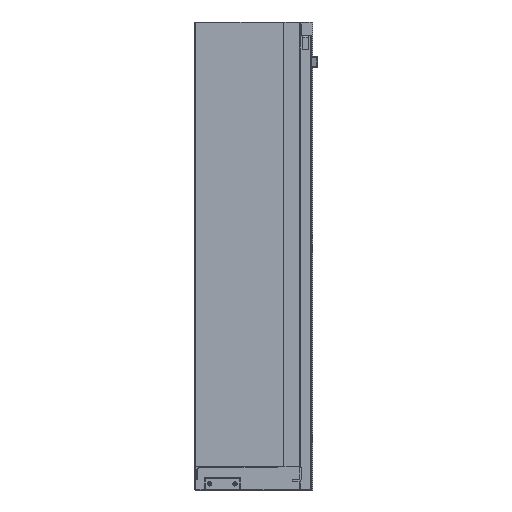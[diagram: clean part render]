
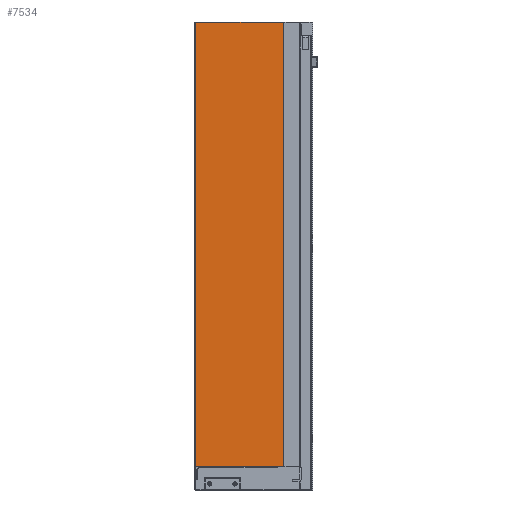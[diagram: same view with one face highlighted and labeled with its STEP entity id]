
A CAD part, left-side view. The second image highlights one B-rep face of the part: STEP entity #7534.
In plain terms, the highlighted planar face has unit normal (-1, 0, 0).
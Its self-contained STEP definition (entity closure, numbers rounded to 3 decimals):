
#368 = DIRECTION ( 'NONE',  ( -1., 0., 0. ) ) ;
#398 = ORIENTED_EDGE ( 'NONE', *, *, #7489, .T. ) ;
#501 = CARTESIAN_POINT ( 'NONE',  ( 0.5, 93.8, -473.5 ) ) ;
#1314 = LINE ( 'NONE', #4140, #9152 ) ;
#1480 = CARTESIAN_POINT ( 'NONE',  ( 0.5, 0., -562.455 ) ) ;
#1648 = LINE ( 'NONE', #1480, #4562 ) ;
#1755 = VERTEX_POINT ( 'NONE', #7722 ) ;
#3297 = VERTEX_POINT ( 'NONE', #501 ) ;
#4036 = DIRECTION ( 'NONE',  ( 0., 0., 1. ) ) ;
#4102 = CARTESIAN_POINT ( 'NONE',  ( 0.5, 93.8, -562.455 ) ) ;
#4140 = CARTESIAN_POINT ( 'NONE',  ( 0.5, 0., -473.5 ) ) ;
#4156 = VECTOR ( 'NONE', #12489, 1000. ) ;
#4243 = FACE_OUTER_BOUND ( 'NONE', #7887, .T. ) ;
#4282 = AXIS2_PLACEMENT_3D ( 'NONE', #9366, #368, #8246 ) ;
#4435 = EDGE_CURVE ( 'NONE', #3297, #1755, #10679, .T. ) ;
#4562 = VECTOR ( 'NONE', #9291, 1000. ) ;
#4642 = ORIENTED_EDGE ( 'NONE', *, *, #8462, .F. ) ;
#4773 = CARTESIAN_POINT ( 'NONE',  ( 0.5, 0., 0. ) ) ;
#6037 = VERTEX_POINT ( 'NONE', #7783 ) ;
#6135 = DIRECTION ( 'NONE',  ( 0., 1., 0. ) ) ;
#6488 = LINE ( 'NONE', #4773, #4156 ) ;
#7331 = CARTESIAN_POINT ( 'NONE',  ( 0.5, 0., 0. ) ) ;
#7489 = EDGE_CURVE ( 'NONE', #6037, #11628, #1648, .T. ) ;
#7534 = ADVANCED_FACE ( 'NONE', ( #4243 ), #11314, .T. ) ;
#7722 = CARTESIAN_POINT ( 'NONE',  ( 0.5, 93.8, 0. ) ) ;
#7761 = VECTOR ( 'NONE', #4036, 1000. ) ;
#7783 = CARTESIAN_POINT ( 'NONE',  ( 0.5, 0., -473.5 ) ) ;
#7887 = EDGE_LOOP ( 'NONE', ( #4642, #398, #12253, #10787 ) ) ;
#8246 = DIRECTION ( 'NONE',  ( 0., 0., 1. ) ) ;
#8462 = EDGE_CURVE ( 'NONE', #6037, #3297, #1314, .T. ) ;
#9152 = VECTOR ( 'NONE', #6135, 1000. ) ;
#9291 = DIRECTION ( 'NONE',  ( 0., 0., 1. ) ) ;
#9366 = CARTESIAN_POINT ( 'NONE',  ( 0.5, 0., -562.455 ) ) ;
#10679 = LINE ( 'NONE', #4102, #7761 ) ;
#10787 = ORIENTED_EDGE ( 'NONE', *, *, #4435, .F. ) ;
#11307 = EDGE_CURVE ( 'NONE', #11628, #1755, #6488, .T. ) ;
#11314 = PLANE ( 'NONE',  #4282 ) ;
#11628 = VERTEX_POINT ( 'NONE', #7331 ) ;
#12253 = ORIENTED_EDGE ( 'NONE', *, *, #11307, .T. ) ;
#12489 = DIRECTION ( 'NONE',  ( 0., 1., 0. ) ) ;
